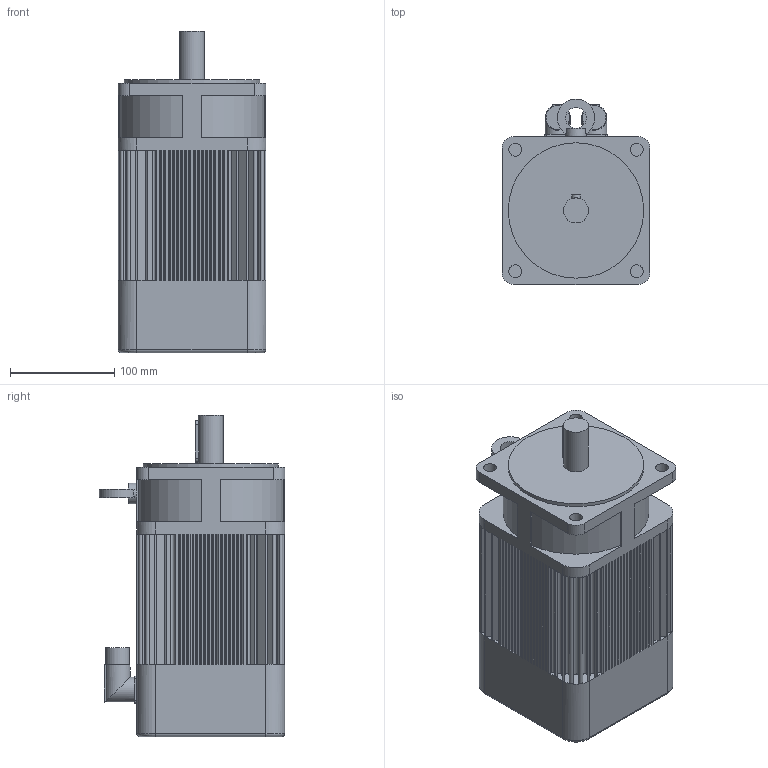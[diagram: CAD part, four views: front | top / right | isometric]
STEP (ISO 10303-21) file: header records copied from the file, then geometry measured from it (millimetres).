
FILE_DESCRIPTION(/* description */ (''),/* implementation_level */ '2;1');
FILE_NAME(/* name */ '\\Lafnas01\disegni\Archivi Lafert\3D\CAD 3D\MODELLI\Assiemi clienti\Serad\Modelli 3D Serad\B71I\Encoder\Enc Without Brake\B7112Ixx6ARx2033.ipt.stp',/* time_stamp */ '2015-09-07T10:51:40+02:00',/* author */ ('Pastrello Ylenia'),/* organization */ (''),/* preprocessor_version */ 'ST-DEVELOPER v15.6',/* originating_system */ 'Autodesk Inventor 2015',/* authorisation */ '');
FILE_SCHEMA (('AUTOMOTIVE_DESIGN { 1 0 10303 214 3 1 1 }'));
Length unit declared in the file: millimetre
Products named in the file (1): B7112Ixx6ARx2033
Bounding box: 142 x 178 x 308.5 mm (x, y, z)
Volume: 4891941.4 mm3; surface area: 269274 mm2
Topology: 1 solids, 1 shells, 547 faces, 1378 edges, 903 vertices
Faces by surface type: plane 430, cylinder 113, torus 4
Full cylindrical faces by diameter (mm): 12.5 x4, 20 x2, 22.7 x2, 24 x3, 130 x1
Entity records: 16305 total; most frequent: CARTESIAN_POINT 2863, DIRECTION 2786, ORIENTED_EDGE 2724, EDGE_CURVE 1362, LINE 1026, VECTOR 1026, VERTEX_POINT 900, AXIS2_PLACEMENT_3D 880
